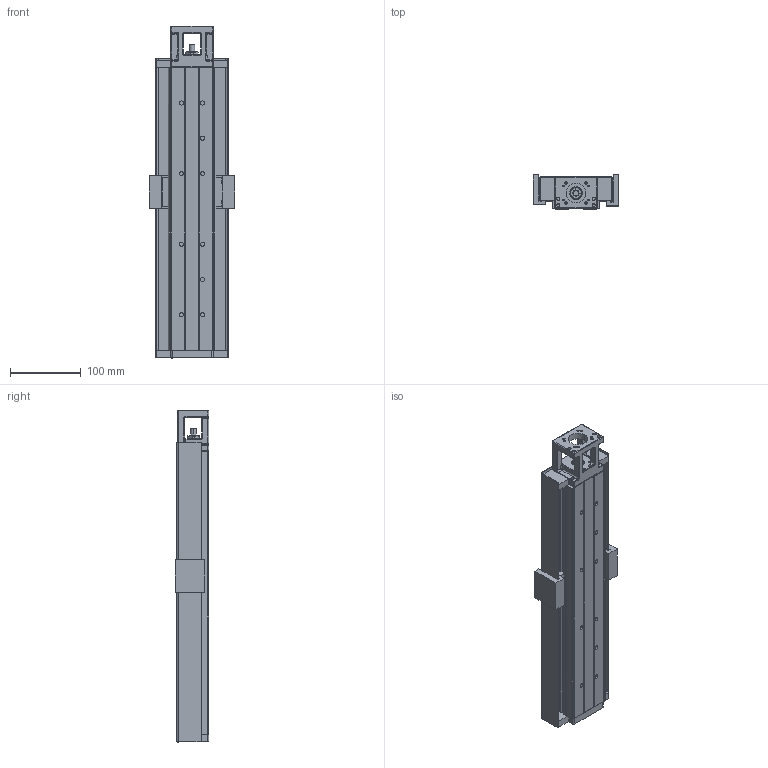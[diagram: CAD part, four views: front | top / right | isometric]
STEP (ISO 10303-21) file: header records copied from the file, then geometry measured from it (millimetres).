
FILE_DESCRIPTION (( 'STEP AP203' ), '1' );
FILE_NAME ('hkk60-400a1f0s.STEP', '2019-10-31T03:06:36', ( '微软用户' ), ( '微软中国' ), 'SwSTEP 2.0', 'SolidWorks 2016', '' );
FILE_SCHEMA (( 'CONFIG_CONTROL_DESIGN' ));
Length unit declared in the file: millimetre
Products named in the file (3): hkk60-300_7; hkk60賑怢_7; hkk60-400a1f0s
Assembly tree (2 placements, depth 2):
  hkk60-400a1f0s
    hkk60-300_7
    hkk60賑怢_7
Bounding box: 121 x 48 x 470 mm (x, y, z)
Volume: 776447.6 mm3; surface area: 351237.2 mm2
Topology: 45 solids, 53 shells, 1424 faces, 3600 edges, 2188 vertices
Faces by surface type: cylinder 518, plane 480, cone 215, bspline 211
Entity records: 61707 total; most frequent: CARTESIAN_POINT 29077, ORIENTED_EDGE 6874, DIRECTION 6370, EDGE_CURVE 3437, AXIS2_PLACEMENT_3D 2329, VERTEX_POINT 2188, LINE 1712, VECTOR 1712
